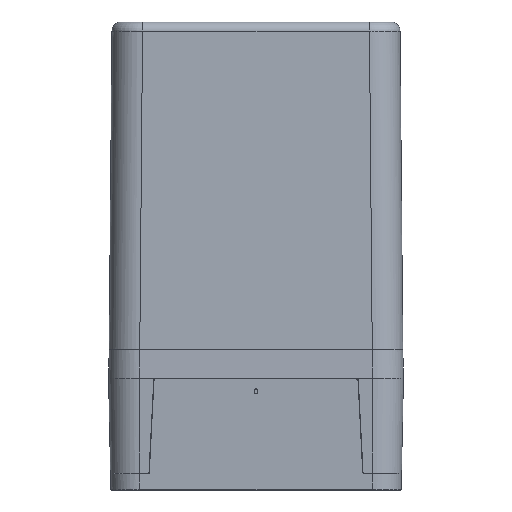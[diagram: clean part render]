
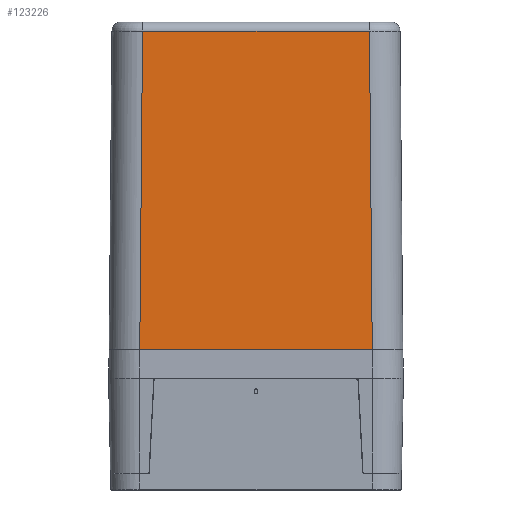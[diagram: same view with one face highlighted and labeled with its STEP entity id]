
A CAD part, front view. The second image highlights one B-rep face of the part: STEP entity #123226.
In plain terms, the highlighted planar face has unit normal (0, -1, 0.009).
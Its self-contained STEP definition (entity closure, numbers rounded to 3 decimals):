
#3985=PLANE('',#131098);
#16405=LINE('',#199217,#29992);
#16411=LINE('',#199340,#29998);
#16412=LINE('',#199358,#29999);
#16413=LINE('',#199360,#30000);
#29992=VECTOR('',#153154,1000.);
#29998=VECTOR('',#153184,1000.);
#29999=VECTOR('',#153187,1000.);
#30000=VECTOR('',#153188,1000.);
#51266=ORIENTED_EDGE('',*,*,#83626,.F.);
#51267=ORIENTED_EDGE('',*,*,#83649,.T.);
#51268=ORIENTED_EDGE('',*,*,#83650,.T.);
#51269=ORIENTED_EDGE('',*,*,#83646,.T.);
#83626=EDGE_CURVE('',#99351,#99352,#16405,.T.);
#83646=EDGE_CURVE('',#99366,#99352,#16411,.T.);
#83649=EDGE_CURVE('',#99351,#99368,#16412,.T.);
#83650=EDGE_CURVE('',#99368,#99366,#16413,.T.);
#99351=VERTEX_POINT('',#199210);
#99352=VERTEX_POINT('',#199218);
#99366=VERTEX_POINT('',#199341);
#99368=VERTEX_POINT('',#199359);
#109269=EDGE_LOOP('',(#51266,#51267,#51268,#51269));
#116040=FACE_BOUND('',#109269,.T.);
#123226=ADVANCED_FACE('',(#116040),#3985,.T.);
#131098=AXIS2_PLACEMENT_3D('',#199357,#153185,#153186);
#153154=DIRECTION('',(1.,0.,0.));
#153184=DIRECTION('',(-0.009,0.009,1.));
#153185=DIRECTION('',(0.,-1.,0.009));
#153186=DIRECTION('',(0.,-0.009,-1.));
#153187=DIRECTION('',(-0.009,-0.009,-1.));
#153188=DIRECTION('',(1.,0.,0.));
#199210=CARTESIAN_POINT('',(-37.093,-16.592,149.026));
#199217=CARTESIAN_POINT('',(-37.093,-16.592,149.026));
#199218=CARTESIAN_POINT('',(37.093,-16.592,149.026));
#199340=CARTESIAN_POINT('',(38.,-17.5,45.));
#199341=CARTESIAN_POINT('',(38.,-17.5,45.));
#199357=CARTESIAN_POINT('',(0.,-17.5,45.));
#199358=CARTESIAN_POINT('',(-37.093,-16.592,149.026));
#199359=CARTESIAN_POINT('',(-38.,-17.5,45.));
#199360=CARTESIAN_POINT('',(-38.,-17.5,45.));
